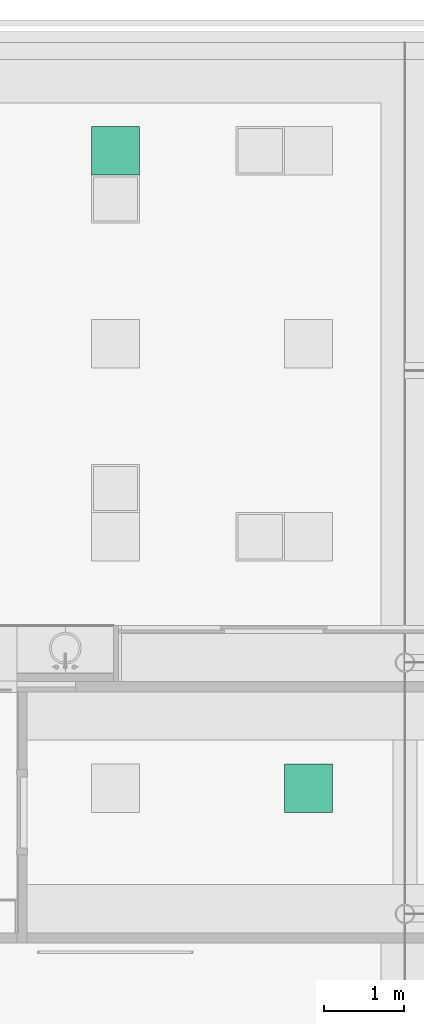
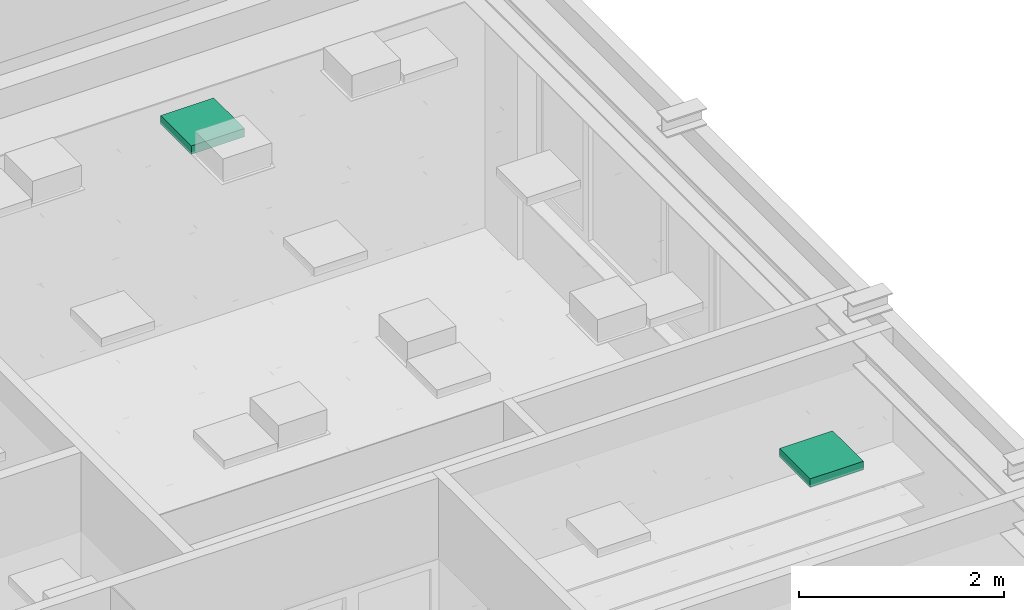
# One storey, part 297 of 347: 2 flow terminals.
"""IFC2X3 building model written with IfcOpenShell, lengths in millimetres."""

from ifc_helpers import new_model, entity, si_unit, converted_unit, derived_unit, money_unit, direction, frame, origin_with_axes, place, context, subcontext, project, spatial, open_shell, faceted_brep, surface_model, source, transform, mapped, type_object, type_shapes, element, save


model = new_model("IFC2X3")

# Units and contexts
model_context = context("Model", 3, precision=0.01, world=origin_with_axes(), true_north=direction((0.0, 1.0)))
plan_context = context("Plan", 3, precision=0.01, world=origin_with_axes(), true_north=direction((0.0, 1.0)))
body_context = subcontext(model_context, "Body", "Model", "MODEL_VIEW")
ifc_project = project(units=[si_unit("LENGTHUNIT", "METRE", prefix="MILLI"), si_unit("AREAUNIT", "SQUARE_METRE"), si_unit("VOLUMEUNIT", "CUBIC_METRE"), converted_unit("PLANEANGLEUNIT", "DEGREE", entity("IfcPlaneAngleMeasure", 0.0174532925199), si_unit("PLANEANGLEUNIT", "RADIAN"), dimensions=[0, 0, 0, 0, 0, 0, 0]), money_unit("EUR"), converted_unit("TIMEUNIT", "Year", entity("IfcTimeMeasure", 31556926.0), si_unit("TIMEUNIT", "SECOND"), dimensions=[0, 0, 1, 0, 0, 0, 0]), si_unit("MASSUNIT", "GRAM", prefix="KILO"), si_unit("THERMODYNAMICTEMPERATUREUNIT", "DEGREE_CELSIUS"), si_unit("LUMINOUSINTENSITYUNIT", "LUMEN"), si_unit("ENERGYUNIT", "JOULE", prefix="MEGA"), derived_unit("THERMALCONDUCTANCEUNIT", [(si_unit("POWERUNIT", "WATT"), 1), (si_unit("LENGTHUNIT", "METRE"), -1), (si_unit("THERMODYNAMICTEMPERATUREUNIT", "KELVIN"), -1)]), derived_unit("SPECIFICHEATCAPACITYUNIT", [(si_unit("ENERGYUNIT", "JOULE"), 1), (si_unit("MASSUNIT", "GRAM", prefix="KILO"), -1), (si_unit("THERMODYNAMICTEMPERATUREUNIT", "KELVIN"), -1)]), derived_unit("MASSDENSITYUNIT", [(si_unit("MASSUNIT", "GRAM", prefix="KILO"), 1), (si_unit("VOLUMEUNIT", "CUBIC_METRE"), -1)])], contexts=[model_context, plan_context])

# Site, building, storey
site_placement = place(None, origin_with_axes())
site = spatial("IfcSite", under=ifc_project, at=site_placement, Name="Site", CompositionType="ELEMENT")
building_placement = place(site_placement, origin_with_axes())
building = spatial("IfcBuilding", under=site, at=building_placement, Name="Naam gebouw", CompositionType="ELEMENT")
storey_placement = place(building_placement, origin_with_axes())
storey = spatial("IfcBuildingStorey", under=building, at=storey_placement, Name="begane grond", CompositionType="ELEMENT", Elevation=0.0)

# Flow terminals
lamp_type = type_object("IfcLampType", Name="TL plafond 25", PredefinedType="NOTDEFINED")
shared_shape = source(origin_with_axes(), body_context, "Body", "SurfaceModel", [
    faceted_brep([(0.0, 0.0, -100.0), (0.0, 0.0, 0.0), (-600.0, 0.0, 0.0), (-600.0, 0.0, -100.0), (0.0, 600.0, -100.0), (0.0, 600.0, 0.0), (-600.0, 600.0, 0.0), (-40.0, 40.0, 0.0), (-560.0, 40.0, 0.0), (-560.0, 560.0, 0.0), (-40.0, 560.0, 0.0), (-600.0, 600.0, -100.0), (-40.0, 40.0, -100.0), (-40.0, 560.0, -100.0), (-560.0, 560.0, -100.0), (-560.0, 40.0, -100.0)], [[[0, 1, 2, 3]], [[4, 5, 1, 0]], [[1, 5, 6, 2], [7, 8, 9, 10]], [[3, 2, 6, 11]], [[0, 3, 11, 4], [12, 13, 14, 15]], [[11, 6, 5, 4]], [[15, 8, 7, 12]], [[14, 9, 8, 15]], [[13, 10, 9, 14]], [[12, 7, 10, 13]]]),
    faceted_brep([(-40.0, 40.0, -16.3333333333), (-40.0, 40.0, 0.0), (-560.0, 40.0, 0.0), (-560.0, 40.0, -16.3333333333), (-40.0, 560.0, -16.3333333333), (-40.0, 560.0, 0.0), (-560.0, 560.0, 0.0), (-560.0, 560.0, -16.3333333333)], [[[0, 1, 2, 3]], [[4, 5, 1, 0]], [[1, 5, 6, 2]], [[3, 2, 6, 7]], [[0, 3, 7, 4]], [[7, 6, 5, 4]]]),
    surface_model("IfcShellBasedSurfaceModel", [(-559.0, 41.0, -100.0), (-559.0, 559.0, -100.0), (-40.0, 559.0, -100.0), (-40.0, 41.0, -100.0)], [open_shell([[[0, 1, 2, 3]]])]),
    faceted_brep([(-40.0, 40.0, -100.0), (-40.0, 40.0, -60.0), (-560.0, 40.0, -60.0), (-560.0, 40.0, -100.0), (-40.0, 560.0, -100.0), (-40.0, 560.0, -60.0), (-560.0, 560.0, -60.0), (-41.0, 41.0, -60.0), (-559.0, 41.0, -60.0), (-559.0, 559.0, -60.0), (-41.0, 559.0, -60.0), (-560.0, 560.0, -100.0), (-41.0, 41.0, -100.0), (-41.0, 559.0, -100.0), (-559.0, 559.0, -100.0), (-559.0, 41.0, -100.0)], [[[0, 1, 2, 3]], [[4, 5, 1, 0]], [[1, 5, 6, 2], [7, 8, 9, 10]], [[3, 2, 6, 11]], [[0, 3, 11, 4], [12, 13, 14, 15]], [[11, 6, 5, 4]], [[15, 8, 7, 12]], [[14, 9, 8, 15]], [[13, 10, 9, 14]], [[12, 7, 10, 13]]]),
    faceted_brep([(-40.0, 144.0, -48.3333333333), (-560.0, 144.0, -48.3333333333), (-560.0, 149.740251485, -47.191526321), (-40.0, 149.740251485, -47.191526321), (-40.0, 138.259748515, -47.191526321), (-560.0, 138.259748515, -47.191526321), (-560.0, 133.393398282, -43.9399350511), (-560.0, 130.141807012, -39.0735848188), (-560.0, 129.0, -33.3333333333), (-560.0, 130.141807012, -27.5930818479), (-560.0, 133.393398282, -22.7267316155), (-560.0, 138.259748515, -19.4751403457), (-560.0, 144.0, -18.3333333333), (-560.0, 149.740251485, -19.4751403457), (-560.0, 154.606601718, -22.7267316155), (-560.0, 157.858192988, -27.5930818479), (-560.0, 159.0, -33.3333333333), (-560.0, 157.858192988, -39.0735848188), (-560.0, 154.606601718, -43.9399350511), (-560.0, 144.0, -46.3333333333), (-560.0, 148.974884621, -45.343767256), (-560.0, 153.192388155, -42.5257214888), (-560.0, 156.010433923, -38.3082179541), (-560.0, 157.0, -33.3333333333), (-560.0, 156.010433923, -28.3584487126), (-560.0, 153.192388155, -24.1409451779), (-560.0, 148.974884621, -21.3228994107), (-560.0, 144.0, -20.3333333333), (-560.0, 139.025115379, -21.3228994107), (-560.0, 134.807611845, -24.1409451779), (-560.0, 131.989566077, -28.3584487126), (-560.0, 131.0, -33.3333333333), (-560.0, 131.989566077, -38.3082179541), (-560.0, 134.807611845, -42.5257214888), (-560.0, 139.025115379, -45.343767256), (-40.0, 154.606601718, -43.9399350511), (-40.0, 157.858192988, -39.0735848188), (-40.0, 159.0, -33.3333333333), (-40.0, 157.858192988, -27.5930818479), (-40.0, 154.606601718, -22.7267316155), (-40.0, 149.740251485, -19.4751403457), (-40.0, 144.0, -18.3333333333), (-40.0, 138.259748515, -19.4751403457), (-40.0, 133.393398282, -22.7267316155), (-40.0, 130.141807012, -27.5930818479), (-40.0, 129.0, -33.3333333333), (-40.0, 130.141807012, -39.0735848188), (-40.0, 133.393398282, -43.9399350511), (-40.0, 144.0, -46.3333333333), (-40.0, 139.025115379, -45.343767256), (-40.0, 134.807611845, -42.5257214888), (-40.0, 131.989566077, -38.3082179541), (-40.0, 131.0, -33.3333333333), (-40.0, 131.989566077, -28.3584487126), (-40.0, 134.807611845, -24.1409451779), (-40.0, 139.025115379, -21.3228994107), (-40.0, 144.0, -20.3333333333), (-40.0, 148.974884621, -21.3228994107), (-40.0, 153.192388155, -24.1409451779), (-40.0, 156.010433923, -28.3584487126), (-40.0, 157.0, -33.3333333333), (-40.0, 156.010433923, -38.3082179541), (-40.0, 153.192388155, -42.5257214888), (-40.0, 148.974884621, -45.343767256)], [[[0, 1, 2, 3]], [[4, 5, 1, 0]], [[1, 5, 6, 7, 8, 9, 10, 11, 12, 13, 14, 15, 16, 17, 18, 2], [19, 20, 21, 22, 23, 24, 25, 26, 27, 28, 29, 30, 31, 32, 33, 34]], [[3, 2, 18, 35]], [[0, 3, 35, 36, 37, 38, 39, 40, 41, 42, 43, 44, 45, 46, 47, 4], [48, 49, 50, 51, 52, 53, 54, 55, 56, 57, 58, 59, 60, 61, 62, 63]], [[47, 6, 5, 4]], [[46, 7, 6, 47]], [[45, 8, 7, 46]], [[44, 9, 8, 45]], [[43, 10, 9, 44]], [[42, 11, 10, 43]], [[41, 12, 11, 42]], [[40, 13, 12, 41]], [[39, 14, 13, 40]], [[38, 15, 14, 39]], [[37, 16, 15, 38]], [[36, 17, 16, 37]], [[35, 18, 17, 36]], [[63, 20, 19, 48]], [[62, 21, 20, 63]], [[61, 22, 21, 62]], [[60, 23, 22, 61]], [[59, 24, 23, 60]], [[58, 25, 24, 59]], [[57, 26, 25, 58]], [[56, 27, 26, 57]], [[55, 28, 27, 56]], [[54, 29, 28, 55]], [[53, 30, 29, 54]], [[52, 31, 30, 53]], [[51, 32, 31, 52]], [[50, 33, 32, 51]], [[49, 34, 33, 50]], [[48, 19, 34, 49]]]),
    faceted_brep([(-40.0, 248.0, -48.3333333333), (-560.0, 248.0, -48.3333333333), (-560.0, 253.740251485, -47.191526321), (-40.0, 253.740251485, -47.191526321), (-40.0, 242.259748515, -47.191526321), (-560.0, 242.259748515, -47.191526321), (-560.0, 237.393398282, -43.9399350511), (-560.0, 234.141807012, -39.0735848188), (-560.0, 233.0, -33.3333333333), (-560.0, 234.141807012, -27.5930818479), (-560.0, 237.393398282, -22.7267316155), (-560.0, 242.259748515, -19.4751403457), (-560.0, 248.0, -18.3333333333), (-560.0, 253.740251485, -19.4751403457), (-560.0, 258.606601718, -22.7267316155), (-560.0, 261.858192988, -27.5930818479), (-560.0, 263.0, -33.3333333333), (-560.0, 261.858192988, -39.0735848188), (-560.0, 258.606601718, -43.9399350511), (-560.0, 248.0, -46.3333333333), (-560.0, 252.974884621, -45.343767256), (-560.0, 257.192388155, -42.5257214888), (-560.0, 260.010433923, -38.3082179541), (-560.0, 261.0, -33.3333333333), (-560.0, 260.010433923, -28.3584487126), (-560.0, 257.192388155, -24.1409451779), (-560.0, 252.974884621, -21.3228994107), (-560.0, 248.0, -20.3333333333), (-560.0, 243.025115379, -21.3228994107), (-560.0, 238.807611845, -24.1409451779), (-560.0, 235.989566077, -28.3584487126), (-560.0, 235.0, -33.3333333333), (-560.0, 235.989566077, -38.3082179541), (-560.0, 238.807611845, -42.5257214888), (-560.0, 243.025115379, -45.343767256), (-40.0, 258.606601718, -43.9399350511), (-40.0, 261.858192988, -39.0735848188), (-40.0, 263.0, -33.3333333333), (-40.0, 261.858192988, -27.5930818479), (-40.0, 258.606601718, -22.7267316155), (-40.0, 253.740251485, -19.4751403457), (-40.0, 248.0, -18.3333333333), (-40.0, 242.259748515, -19.4751403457), (-40.0, 237.393398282, -22.7267316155), (-40.0, 234.141807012, -27.5930818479), (-40.0, 233.0, -33.3333333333), (-40.0, 234.141807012, -39.0735848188), (-40.0, 237.393398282, -43.9399350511), (-40.0, 248.0, -46.3333333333), (-40.0, 243.025115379, -45.343767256), (-40.0, 238.807611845, -42.5257214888), (-40.0, 235.989566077, -38.3082179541), (-40.0, 235.0, -33.3333333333), (-40.0, 235.989566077, -28.3584487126), (-40.0, 238.807611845, -24.1409451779), (-40.0, 243.025115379, -21.3228994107), (-40.0, 248.0, -20.3333333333), (-40.0, 252.974884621, -21.3228994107), (-40.0, 257.192388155, -24.1409451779), (-40.0, 260.010433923, -28.3584487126), (-40.0, 261.0, -33.3333333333), (-40.0, 260.010433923, -38.3082179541), (-40.0, 257.192388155, -42.5257214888), (-40.0, 252.974884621, -45.343767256)], [[[0, 1, 2, 3]], [[4, 5, 1, 0]], [[1, 5, 6, 7, 8, 9, 10, 11, 12, 13, 14, 15, 16, 17, 18, 2], [19, 20, 21, 22, 23, 24, 25, 26, 27, 28, 29, 30, 31, 32, 33, 34]], [[3, 2, 18, 35]], [[0, 3, 35, 36, 37, 38, 39, 40, 41, 42, 43, 44, 45, 46, 47, 4], [48, 49, 50, 51, 52, 53, 54, 55, 56, 57, 58, 59, 60, 61, 62, 63]], [[47, 6, 5, 4]], [[46, 7, 6, 47]], [[45, 8, 7, 46]], [[44, 9, 8, 45]], [[43, 10, 9, 44]], [[42, 11, 10, 43]], [[41, 12, 11, 42]], [[40, 13, 12, 41]], [[39, 14, 13, 40]], [[38, 15, 14, 39]], [[37, 16, 15, 38]], [[36, 17, 16, 37]], [[35, 18, 17, 36]], [[63, 20, 19, 48]], [[62, 21, 20, 63]], [[61, 22, 21, 62]], [[60, 23, 22, 61]], [[59, 24, 23, 60]], [[58, 25, 24, 59]], [[57, 26, 25, 58]], [[56, 27, 26, 57]], [[55, 28, 27, 56]], [[54, 29, 28, 55]], [[53, 30, 29, 54]], [[52, 31, 30, 53]], [[51, 32, 31, 52]], [[50, 33, 32, 51]], [[49, 34, 33, 50]], [[48, 19, 34, 49]]]),
    faceted_brep([(-40.0, 352.0, -48.3333333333), (-560.0, 352.0, -48.3333333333), (-560.0, 357.740251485, -47.191526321), (-40.0, 357.740251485, -47.191526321), (-40.0, 346.259748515, -47.191526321), (-560.0, 346.259748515, -47.191526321), (-560.0, 341.393398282, -43.9399350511), (-560.0, 338.141807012, -39.0735848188), (-560.0, 337.0, -33.3333333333), (-560.0, 338.141807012, -27.5930818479), (-560.0, 341.393398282, -22.7267316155), (-560.0, 346.259748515, -19.4751403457), (-560.0, 352.0, -18.3333333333), (-560.0, 357.740251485, -19.4751403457), (-560.0, 362.606601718, -22.7267316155), (-560.0, 365.858192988, -27.5930818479), (-560.0, 367.0, -33.3333333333), (-560.0, 365.858192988, -39.0735848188), (-560.0, 362.606601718, -43.9399350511), (-560.0, 352.0, -46.3333333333), (-560.0, 356.974884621, -45.343767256), (-560.0, 361.192388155, -42.5257214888), (-560.0, 364.010433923, -38.3082179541), (-560.0, 365.0, -33.3333333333), (-560.0, 364.010433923, -28.3584487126), (-560.0, 361.192388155, -24.1409451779), (-560.0, 356.974884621, -21.3228994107), (-560.0, 352.0, -20.3333333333), (-560.0, 347.025115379, -21.3228994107), (-560.0, 342.807611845, -24.1409451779), (-560.0, 339.989566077, -28.3584487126), (-560.0, 339.0, -33.3333333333), (-560.0, 339.989566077, -38.3082179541), (-560.0, 342.807611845, -42.5257214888), (-560.0, 347.025115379, -45.343767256), (-40.0, 362.606601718, -43.9399350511), (-40.0, 365.858192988, -39.0735848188), (-40.0, 367.0, -33.3333333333), (-40.0, 365.858192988, -27.5930818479), (-40.0, 362.606601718, -22.7267316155), (-40.0, 357.740251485, -19.4751403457), (-40.0, 352.0, -18.3333333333), (-40.0, 346.259748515, -19.4751403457), (-40.0, 341.393398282, -22.7267316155), (-40.0, 338.141807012, -27.5930818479), (-40.0, 337.0, -33.3333333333), (-40.0, 338.141807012, -39.0735848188), (-40.0, 341.393398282, -43.9399350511), (-40.0, 352.0, -46.3333333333), (-40.0, 347.025115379, -45.343767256), (-40.0, 342.807611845, -42.5257214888), (-40.0, 339.989566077, -38.3082179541), (-40.0, 339.0, -33.3333333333), (-40.0, 339.989566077, -28.3584487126), (-40.0, 342.807611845, -24.1409451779), (-40.0, 347.025115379, -21.3228994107), (-40.0, 352.0, -20.3333333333), (-40.0, 356.974884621, -21.3228994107), (-40.0, 361.192388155, -24.1409451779), (-40.0, 364.010433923, -28.3584487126), (-40.0, 365.0, -33.3333333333), (-40.0, 364.010433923, -38.3082179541), (-40.0, 361.192388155, -42.5257214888), (-40.0, 356.974884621, -45.343767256)], [[[0, 1, 2, 3]], [[4, 5, 1, 0]], [[1, 5, 6, 7, 8, 9, 10, 11, 12, 13, 14, 15, 16, 17, 18, 2], [19, 20, 21, 22, 23, 24, 25, 26, 27, 28, 29, 30, 31, 32, 33, 34]], [[3, 2, 18, 35]], [[0, 3, 35, 36, 37, 38, 39, 40, 41, 42, 43, 44, 45, 46, 47, 4], [48, 49, 50, 51, 52, 53, 54, 55, 56, 57, 58, 59, 60, 61, 62, 63]], [[47, 6, 5, 4]], [[46, 7, 6, 47]], [[45, 8, 7, 46]], [[44, 9, 8, 45]], [[43, 10, 9, 44]], [[42, 11, 10, 43]], [[41, 12, 11, 42]], [[40, 13, 12, 41]], [[39, 14, 13, 40]], [[38, 15, 14, 39]], [[37, 16, 15, 38]], [[36, 17, 16, 37]], [[35, 18, 17, 36]], [[63, 20, 19, 48]], [[62, 21, 20, 63]], [[61, 22, 21, 62]], [[60, 23, 22, 61]], [[59, 24, 23, 60]], [[58, 25, 24, 59]], [[57, 26, 25, 58]], [[56, 27, 26, 57]], [[55, 28, 27, 56]], [[54, 29, 28, 55]], [[53, 30, 29, 54]], [[52, 31, 30, 53]], [[51, 32, 31, 52]], [[50, 33, 32, 51]], [[49, 34, 33, 50]], [[48, 19, 34, 49]]]),
    faceted_brep([(-40.0, 456.0, -48.3333333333), (-560.0, 456.0, -48.3333333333), (-560.0, 461.740251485, -47.191526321), (-40.0, 461.740251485, -47.191526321), (-40.0, 450.259748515, -47.191526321), (-560.0, 450.259748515, -47.191526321), (-560.0, 445.393398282, -43.9399350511), (-560.0, 442.141807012, -39.0735848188), (-560.0, 441.0, -33.3333333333), (-560.0, 442.141807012, -27.5930818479), (-560.0, 445.393398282, -22.7267316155), (-560.0, 450.259748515, -19.4751403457), (-560.0, 456.0, -18.3333333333), (-560.0, 461.740251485, -19.4751403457), (-560.0, 466.606601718, -22.7267316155), (-560.0, 469.858192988, -27.5930818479), (-560.0, 471.0, -33.3333333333), (-560.0, 469.858192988, -39.0735848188), (-560.0, 466.606601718, -43.9399350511), (-560.0, 456.0, -46.3333333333), (-560.0, 460.974884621, -45.343767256), (-560.0, 465.192388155, -42.5257214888), (-560.0, 468.010433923, -38.3082179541), (-560.0, 469.0, -33.3333333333), (-560.0, 468.010433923, -28.3584487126), (-560.0, 465.192388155, -24.1409451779), (-560.0, 460.974884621, -21.3228994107), (-560.0, 456.0, -20.3333333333), (-560.0, 451.025115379, -21.3228994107), (-560.0, 446.807611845, -24.1409451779), (-560.0, 443.989566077, -28.3584487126), (-560.0, 443.0, -33.3333333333), (-560.0, 443.989566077, -38.3082179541), (-560.0, 446.807611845, -42.5257214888), (-560.0, 451.025115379, -45.343767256), (-40.0, 466.606601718, -43.9399350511), (-40.0, 469.858192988, -39.0735848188), (-40.0, 471.0, -33.3333333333), (-40.0, 469.858192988, -27.5930818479), (-40.0, 466.606601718, -22.7267316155), (-40.0, 461.740251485, -19.4751403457), (-40.0, 456.0, -18.3333333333), (-40.0, 450.259748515, -19.4751403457), (-40.0, 445.393398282, -22.7267316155), (-40.0, 442.141807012, -27.5930818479), (-40.0, 441.0, -33.3333333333), (-40.0, 442.141807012, -39.0735848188), (-40.0, 445.393398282, -43.9399350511), (-40.0, 456.0, -46.3333333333), (-40.0, 451.025115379, -45.343767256), (-40.0, 446.807611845, -42.5257214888), (-40.0, 443.989566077, -38.3082179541), (-40.0, 443.0, -33.3333333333), (-40.0, 443.989566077, -28.3584487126), (-40.0, 446.807611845, -24.1409451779), (-40.0, 451.025115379, -21.3228994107), (-40.0, 456.0, -20.3333333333), (-40.0, 460.974884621, -21.3228994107), (-40.0, 465.192388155, -24.1409451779), (-40.0, 468.010433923, -28.3584487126), (-40.0, 469.0, -33.3333333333), (-40.0, 468.010433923, -38.3082179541), (-40.0, 465.192388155, -42.5257214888), (-40.0, 460.974884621, -45.343767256)], [[[0, 1, 2, 3]], [[4, 5, 1, 0]], [[1, 5, 6, 7, 8, 9, 10, 11, 12, 13, 14, 15, 16, 17, 18, 2], [19, 20, 21, 22, 23, 24, 25, 26, 27, 28, 29, 30, 31, 32, 33, 34]], [[3, 2, 18, 35]], [[0, 3, 35, 36, 37, 38, 39, 40, 41, 42, 43, 44, 45, 46, 47, 4], [48, 49, 50, 51, 52, 53, 54, 55, 56, 57, 58, 59, 60, 61, 62, 63]], [[47, 6, 5, 4]], [[46, 7, 6, 47]], [[45, 8, 7, 46]], [[44, 9, 8, 45]], [[43, 10, 9, 44]], [[42, 11, 10, 43]], [[41, 12, 11, 42]], [[40, 13, 12, 41]], [[39, 14, 13, 40]], [[38, 15, 14, 39]], [[37, 16, 15, 38]], [[36, 17, 16, 37]], [[35, 18, 17, 36]], [[63, 20, 19, 48]], [[62, 21, 20, 63]], [[61, 22, 21, 62]], [[60, 23, 22, 61]], [[59, 24, 23, 60]], [[58, 25, 24, 59]], [[57, 26, 25, 58]], [[56, 27, 26, 57]], [[55, 28, 27, 56]], [[54, 29, 28, 55]], [[53, 30, 29, 54]], [[52, 31, 30, 53]], [[51, 32, 31, 52]], [[50, 33, 32, 51]], [[49, 34, 33, 50]], [[48, 19, 34, 49]]]),
])
type_shapes(lamp_type, [shared_shape])
for number, where, z_axis, x_axis, name in (
    (1, (52274.9999999, 45390.5, 3295.0), (0.0, 0.0, 1.0), (1.0, 0.0, 0.0), "63_Lamp-x"),
    (2, (54674.9999918, 37462.5, 3295.0), (0.0, 0.0, 1.0), (1.0, 0.0, 0.0), "63_Lamp-x"),
):
    element("IfcFlowTerminal", number, at=place(storey_placement, frame(where, z_axis=z_axis, x_axis=x_axis)), inside=storey, type_object=lamp_type, Name=name, ObjectType="Lamp", context=body_context, shape_type="MappedRepresentation", body=[
        mapped(shared_shape, transform((0.0, 0.0, 0.0))),
    ])

save(model, "model.ifc")
